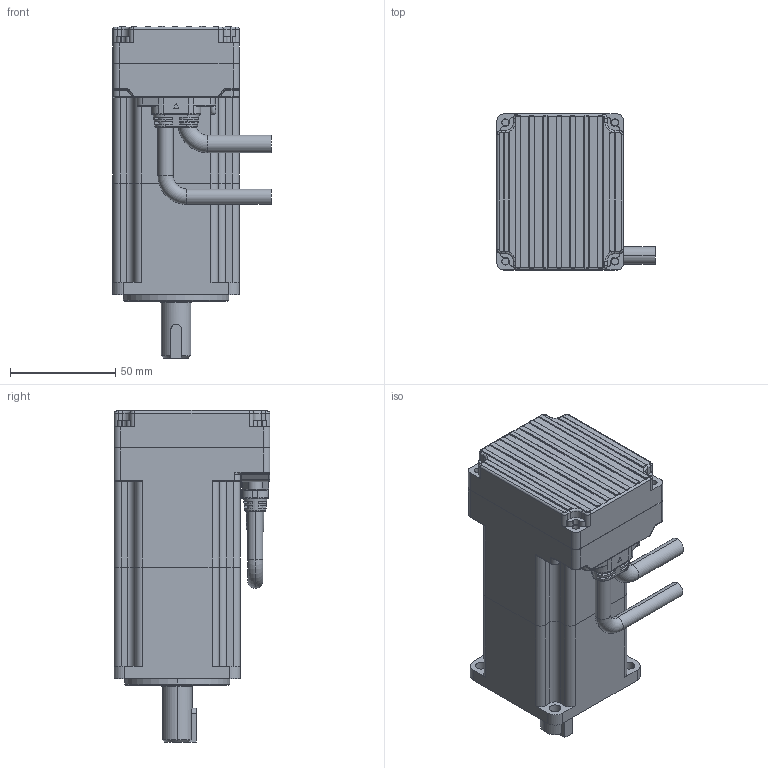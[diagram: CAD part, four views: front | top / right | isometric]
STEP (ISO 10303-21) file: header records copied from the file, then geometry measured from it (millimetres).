
FILE_DESCRIPTION((''),'2;1');
FILE_NAME('000-ISMK60-020-DMBK-AA-000','2023-11-16T16:46:05',('RD0060'),(''),'CREO PARAMETRIC BY PTC INC, 2016510','CREO PARAMETRIC BY PTC INC, 2016510','');
FILE_SCHEMA(('CONFIG_CONTROL_DESIGN'));
Length unit declared in the file: millimetre
Products named in the file (1): 000-ISMK60-020-DMBK-AA-000
Bounding box: 75 x 74 x 157.5 mm (x, y, z)
Surface area: 56247.7 mm2 (no closed solid volume)
Topology: 0 solids, 24 shells, 678 faces, 1945 edges, 1264 vertices
Faces by surface type: cylinder 296, plane 239, torus 90, bspline 40, cone 13
Entity records: 26614 total; most frequent: CARTESIAN_POINT 8929, DIRECTION 3886, ORIENTED_EDGE 3463, EDGE_CURVE 1943, AXIS2_PLACEMENT_3D 1488, VERTEX_POINT 1264, VECTOR 910, LINE 910
